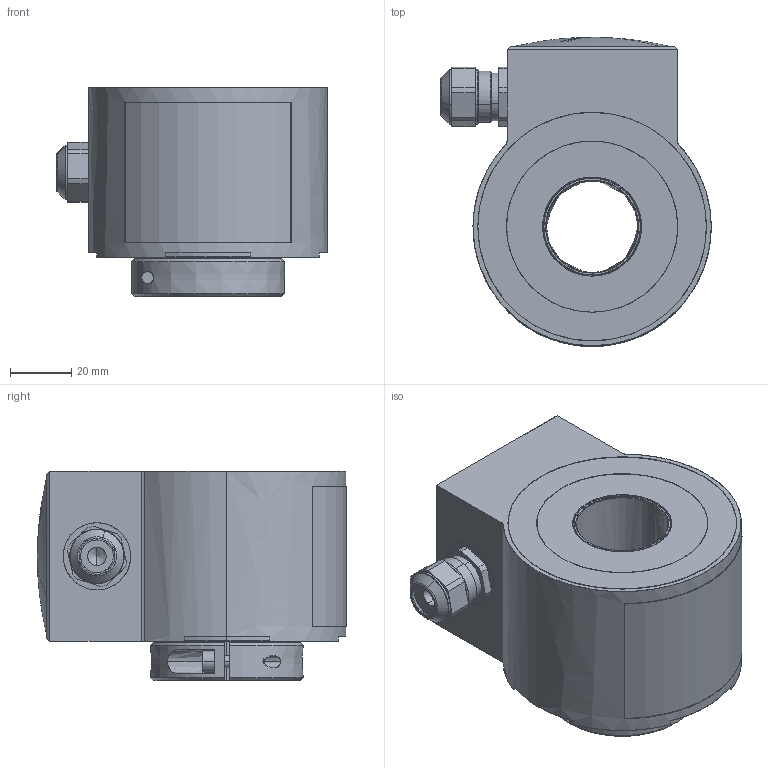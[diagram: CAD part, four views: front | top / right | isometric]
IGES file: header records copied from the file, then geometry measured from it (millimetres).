
Start section: SolidWorks IGES file using analytic representation for surfaces
Global section: file name: R:\20_MW\HW730\Mechanik\CAD\HW730.IGS; native system: SolidWorks 2013; preprocessor: SolidWorks 2013; author: stu; date: 130429.113528; units: millimetre
Bounding box: 88.55 x 101.19 x 68.58 mm (x, y, z)
Surface area: 53245.6 mm2 (no closed solid volume)
Topology: 0 solids, 0 shells, 321 faces, 5062 edges, 5048 vertices
Faces by surface type: revolution 192, bspline 129
